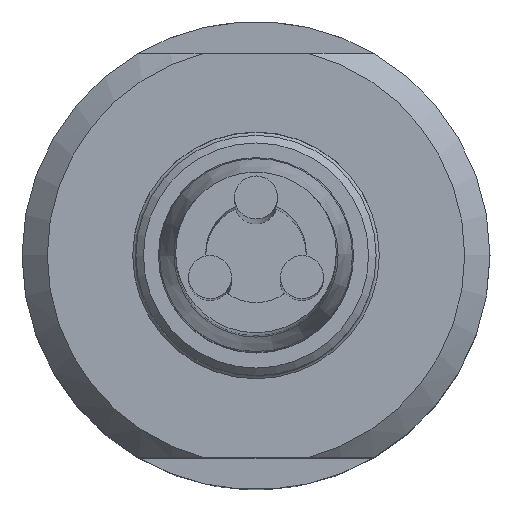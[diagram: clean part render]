
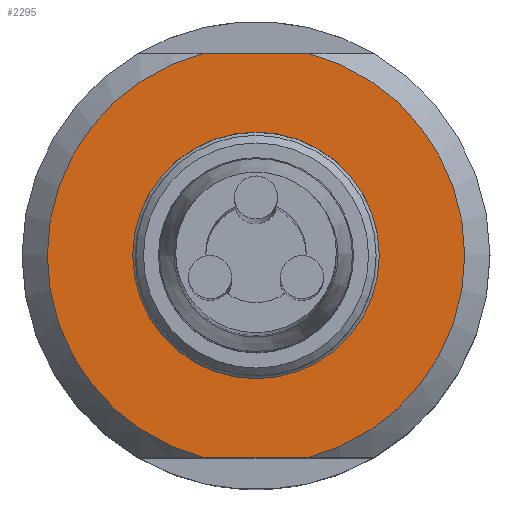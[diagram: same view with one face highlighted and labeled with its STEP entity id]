
A CAD part, top view. The second image highlights one B-rep face of the part: STEP entity #2295.
In plain terms, the highlighted planar face has unit normal (0, 0, 1).
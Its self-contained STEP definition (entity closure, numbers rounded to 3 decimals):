
#29 = CARTESIAN_POINT ( 'NONE',  ( 2.016, 8., 20.3 ) ) ;
#125 = ORIENTED_EDGE ( 'NONE', *, *, #3608, .T. ) ;
#191 = DIRECTION ( 'NONE',  ( 0., 0., -1. ) ) ;
#204 = CIRCLE ( 'NONE', #1436, 4.875 ) ;
#361 = DIRECTION ( 'NONE',  ( -1., 0., 0. ) ) ;
#384 = VERTEX_POINT ( 'NONE', #2663 ) ;
#390 = CARTESIAN_POINT ( 'NONE',  ( -23.067, -8., 20.3 ) ) ;
#483 = ORIENTED_EDGE ( 'NONE', *, *, #3095, .T. ) ;
#498 = ORIENTED_EDGE ( 'NONE', *, *, #2985, .F. ) ;
#519 = DIRECTION ( 'NONE',  ( 0., 0., -1. ) ) ;
#604 = ORIENTED_EDGE ( 'NONE', *, *, #1637, .T. ) ;
#685 = LINE ( 'NONE', #390, #2363 ) ;
#732 = DIRECTION ( 'NONE',  ( 1., 0., 0. ) ) ;
#876 = VERTEX_POINT ( 'NONE', #29 ) ;
#925 = CARTESIAN_POINT ( 'NONE',  ( 2.016, -8., 20.3 ) ) ;
#1006 = DIRECTION ( 'NONE',  ( 0., 0., 1. ) ) ;
#1220 = VECTOR ( 'NONE', #3142, 1000. ) ;
#1436 = AXIS2_PLACEMENT_3D ( 'NONE', #3075, #519, #2551 ) ;
#1493 = VERTEX_POINT ( 'NONE', #2969 ) ;
#1506 = CIRCLE ( 'NONE', #1986, 8.25 ) ;
#1616 = DIRECTION ( 'NONE',  ( 1., 0., 0. ) ) ;
#1637 = EDGE_CURVE ( 'NONE', #876, #2917, #1711, .T. ) ;
#1705 = VERTEX_POINT ( 'NONE', #925 ) ;
#1711 = LINE ( 'NONE', #1753, #1220 ) ;
#1753 = CARTESIAN_POINT ( 'NONE',  ( -23.067, 8., 20.3 ) ) ;
#1811 = AXIS2_PLACEMENT_3D ( 'NONE', #2179, #1006, #732 ) ;
#1986 = AXIS2_PLACEMENT_3D ( 'NONE', #2992, #2640, #361 ) ;
#2179 = CARTESIAN_POINT ( 'NONE',  ( 0., 8.25, 20.3 ) ) ;
#2295 = ADVANCED_FACE ( 'NONE', ( #2433, #3663 ), #3091, .T. ) ;
#2363 = VECTOR ( 'NONE', #1616, 1000. ) ;
#2413 = CARTESIAN_POINT ( 'NONE',  ( -2.016, 8., 20.3 ) ) ;
#2433 = FACE_BOUND ( 'NONE', #3391, .T. ) ;
#2537 = CARTESIAN_POINT ( 'NONE',  ( 0., 0., 20.3 ) ) ;
#2551 = DIRECTION ( 'NONE',  ( -1., 0., 0. ) ) ;
#2640 = DIRECTION ( 'NONE',  ( 0., 0., -1. ) ) ;
#2663 = CARTESIAN_POINT ( 'NONE',  ( -4.875, 0., 20.3 ) ) ;
#2708 = AXIS2_PLACEMENT_3D ( 'NONE', #2537, #191, #3121 ) ;
#2744 = ORIENTED_EDGE ( 'NONE', *, *, #3224, .F. ) ;
#2898 = CIRCLE ( 'NONE', #2708, 8.25 ) ;
#2917 = VERTEX_POINT ( 'NONE', #2413 ) ;
#2969 = CARTESIAN_POINT ( 'NONE',  ( -2.016, -8., 20.3 ) ) ;
#2985 = EDGE_CURVE ( 'NONE', #1493, #2917, #1506, .T. ) ;
#2992 = CARTESIAN_POINT ( 'NONE',  ( 0., 0., 20.3 ) ) ;
#3001 = EDGE_LOOP ( 'NONE', ( #498, #125, #2744, #604 ) ) ;
#3075 = CARTESIAN_POINT ( 'NONE',  ( 0., 0., 20.3 ) ) ;
#3091 = PLANE ( 'NONE',  #1811 ) ;
#3095 = EDGE_CURVE ( 'NONE', #384, #384, #204, .T. ) ;
#3121 = DIRECTION ( 'NONE',  ( -1., 0., 0. ) ) ;
#3142 = DIRECTION ( 'NONE',  ( -1., 0., 0. ) ) ;
#3224 = EDGE_CURVE ( 'NONE', #876, #1705, #2898, .T. ) ;
#3391 = EDGE_LOOP ( 'NONE', ( #483 ) ) ;
#3608 = EDGE_CURVE ( 'NONE', #1493, #1705, #685, .T. ) ;
#3663 = FACE_OUTER_BOUND ( 'NONE', #3001, .T. ) ;
